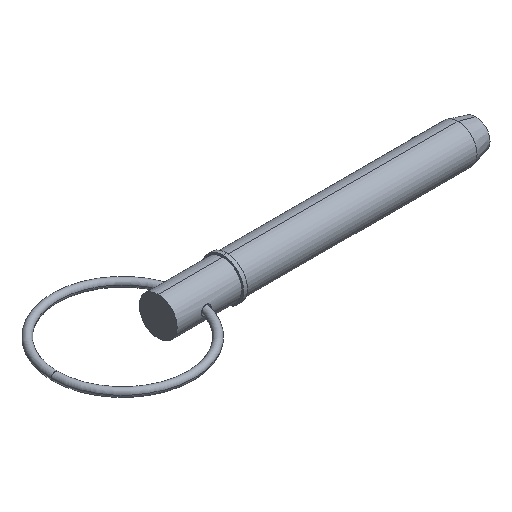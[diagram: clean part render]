
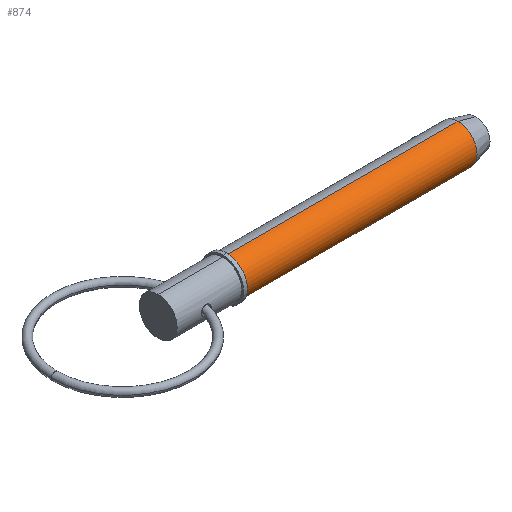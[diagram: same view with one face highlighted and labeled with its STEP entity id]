
A CAD part, isometric view. The second image highlights one B-rep face of the part: STEP entity #874.
In plain terms, the highlighted cylindrical face has radius 7.145 mm (diameter 14.29 mm), a partial arc.
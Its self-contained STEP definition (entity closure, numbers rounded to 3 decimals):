
#25 = CARTESIAN_POINT ( 'NONE',  ( 25.7, 0., 0. ) ) ;
#57 = LINE ( 'NONE', #147, #77 ) ;
#77 = VECTOR ( 'NONE', #650, 1000. ) ;
#78 = DIRECTION ( 'NONE',  ( 1., 0., 0. ) ) ;
#147 = CARTESIAN_POINT ( 'NONE',  ( 0., 0., 7.145 ) ) ;
#175 = FACE_OUTER_BOUND ( 'NONE', #471, .T. ) ;
#181 = CARTESIAN_POINT ( 'NONE',  ( 0., 0., 0. ) ) ;
#218 = CARTESIAN_POINT ( 'NONE',  ( 112.684, 0., 0. ) ) ;
#240 = CARTESIAN_POINT ( 'NONE',  ( 112.684, 0., -7.145 ) ) ;
#242 = DIRECTION ( 'NONE',  ( 0., 0., -1. ) ) ;
#249 = ORIENTED_EDGE ( 'NONE', *, *, #283, .F. ) ;
#255 = CYLINDRICAL_SURFACE ( 'NONE', #483, 7.145 ) ;
#267 = EDGE_CURVE ( 'NONE', #290, #360, #995, .T. ) ;
#283 = EDGE_CURVE ( 'NONE', #462, #891, #57, .T. ) ;
#290 = VERTEX_POINT ( 'NONE', #732 ) ;
#297 = CIRCLE ( 'NONE', #909, 7.145 ) ;
#360 = VERTEX_POINT ( 'NONE', #240 ) ;
#409 = DIRECTION ( 'NONE',  ( 0., 0., -1. ) ) ;
#437 = CIRCLE ( 'NONE', #530, 7.145 ) ;
#448 = EDGE_CURVE ( 'NONE', #462, #290, #297, .T. ) ;
#461 = DIRECTION ( 'NONE',  ( 0., 0., -1. ) ) ;
#462 = VERTEX_POINT ( 'NONE', #765 ) ;
#471 = EDGE_LOOP ( 'NONE', ( #249, #800, #567, #533 ) ) ;
#483 = AXIS2_PLACEMENT_3D ( 'NONE', #181, #78, #409 ) ;
#530 = AXIS2_PLACEMENT_3D ( 'NONE', #218, #965, #242 ) ;
#533 = ORIENTED_EDGE ( 'NONE', *, *, #709, .F. ) ;
#567 = ORIENTED_EDGE ( 'NONE', *, *, #267, .T. ) ;
#589 = CARTESIAN_POINT ( 'NONE',  ( 112.684, 0., 7.145 ) ) ;
#603 = CARTESIAN_POINT ( 'NONE',  ( 0., 0., -7.145 ) ) ;
#633 = DIRECTION ( 'NONE',  ( 1., 0., 0. ) ) ;
#650 = DIRECTION ( 'NONE',  ( 1., 0., 0. ) ) ;
#709 = EDGE_CURVE ( 'NONE', #891, #360, #437, .T. ) ;
#732 = CARTESIAN_POINT ( 'NONE',  ( 25.7, 0., -7.145 ) ) ;
#765 = CARTESIAN_POINT ( 'NONE',  ( 25.7, 0., 7.145 ) ) ;
#800 = ORIENTED_EDGE ( 'NONE', *, *, #448, .T. ) ;
#874 = ADVANCED_FACE ( 'NONE', ( #175 ), #255, .T. ) ;
#891 = VERTEX_POINT ( 'NONE', #589 ) ;
#909 = AXIS2_PLACEMENT_3D ( 'NONE', #25, #997, #461 ) ;
#965 = DIRECTION ( 'NONE',  ( 1., 0., 0. ) ) ;
#992 = VECTOR ( 'NONE', #633, 1000. ) ;
#995 = LINE ( 'NONE', #603, #992 ) ;
#997 = DIRECTION ( 'NONE',  ( 1., 0., 0. ) ) ;
